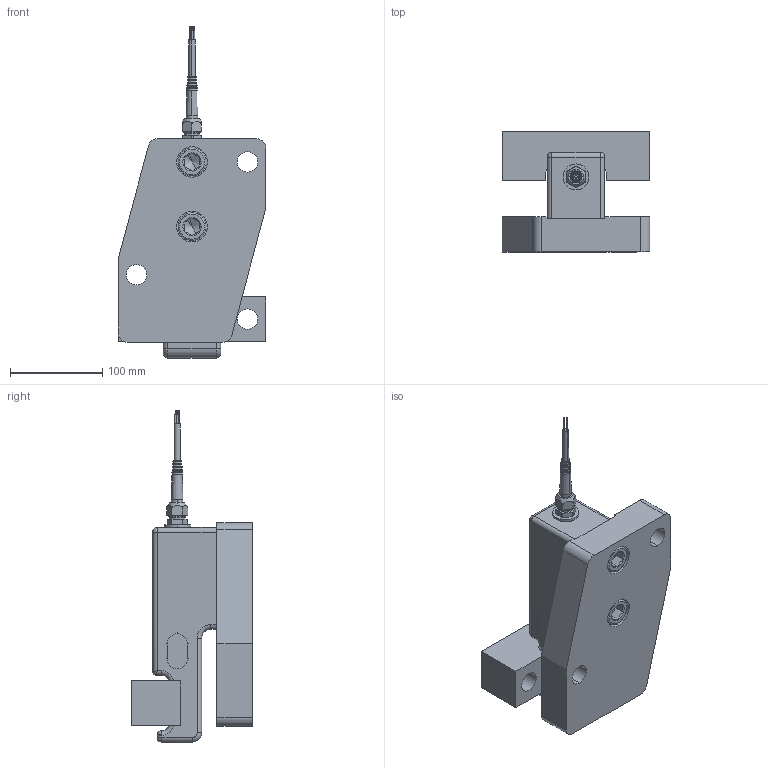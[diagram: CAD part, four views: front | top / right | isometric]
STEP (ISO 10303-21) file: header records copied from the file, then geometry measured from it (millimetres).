
FILE_DESCRIPTION (( 'STEP AP214' ), '1' );
FILE_NAME ('KIS-9 100 kN Module.STEP', '2021-06-30T12:02:46', ( '' ), ( '' ), 'SwSTEP 2.0', 'SolidWorks 2021', '' );
FILE_SCHEMA (( 'AUTOMOTIVE_DESIGN' ));
Length unit declared in the file: millimetre
Products named in the file (9): M26x1.5 - Pg9 - 6369829; Skyddsplåt KIS-9 50 kN; 400387r0; KIS-9 100 kN Module; 500488r0; 400327r0; pg 9 kabelförskruvning; Kabel; M20x30
Assembly tree (10 placements, depth 2):
  KIS-9 100 kN Module
    400387r0
    400327r0
    500488r0
    pg 9 kabelförskruvning
    Kabel
    M26x1.5 - Pg9 - 6369829
    Skyddsplåt KIS-9 50 kN  x2
    M20x30  x2
Bounding box: 160 x 130 x 359 mm (x, y, z)
Volume: 2194765.4 mm3; surface area: 232114.1 mm2
Topology: 10 solids, 13 shells, 411 faces, 912 edges, 544 vertices
Faces by surface type: cylinder 150, plane 127, cone 68, bspline 38, torus 26, sphere 2
Entity records: 12612 total; most frequent: CARTESIAN_POINT 2770, DIRECTION 1881, ORIENTED_EDGE 1648, EDGE_CURVE 824, AXIS2_PLACEMENT_3D 772, VERTEX_POINT 503, CIRCLE 425, EDGE_LOOP 419
